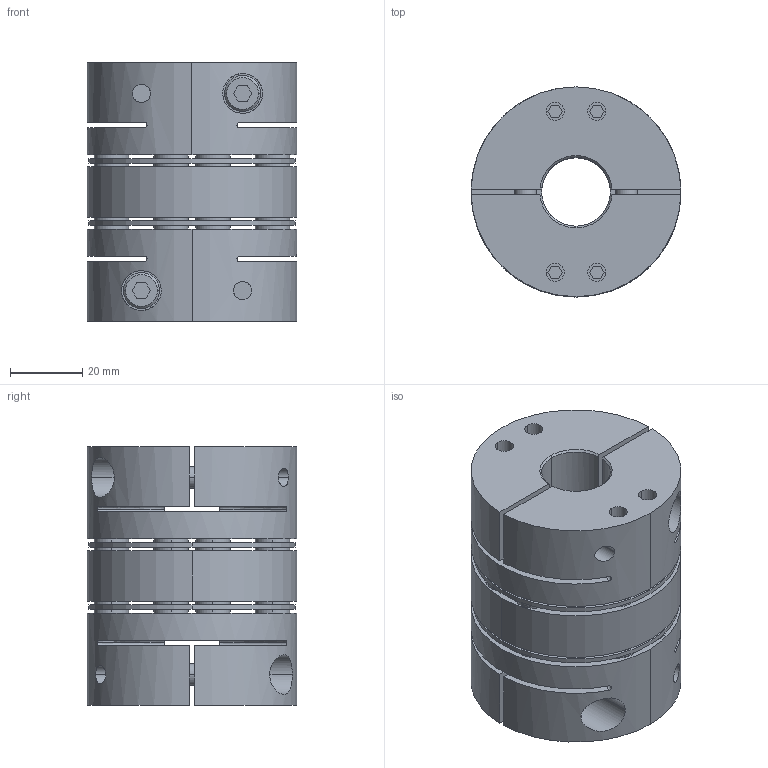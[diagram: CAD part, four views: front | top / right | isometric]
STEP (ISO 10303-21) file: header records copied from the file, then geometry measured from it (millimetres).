
FILE_DESCRIPTION((''),'2;1');
FILE_NAME('TAD-58C-19×19.stp','2022-11-13T22:04:01',(''),(''),'AutoCAD STEP 2000i','AutoCAD 2000i',', , ');
FILE_SCHEMA(('CONFIG_CONTROL_DESIGN'));
Length unit declared in the file: millimetre
Products named in the file (6): TAD-58C-12×12; 忣兜1; TA58C-12-2; CAP-M6×20; TA58C-12; TAS-58C-ITA
Assembly tree (6 placements, depth 3):
  TAD-58C-12×12
    忣兜1
    TA58C-12-2
      CAP-M6×20
    TA58C-12
      CAP-M6×20
    TAS-58C-ITA
Bounding box: 58 x 58 x 71.5 mm (x, y, z)
Volume: 134516 mm3; surface area: 56087 mm2
Topology: 1 solids, 5 shells, 568 faces, 1352 edges, 920 vertices
Faces by surface type: plane 252, cylinder 228, cone 72, bspline 16
Entity records: 18581 total; most frequent: CARTESIAN_POINT 4799, DIRECTION 2994, ORIENTED_EDGE 2640, EDGE_CURVE 1320, AXIS2_PLACEMENT_3D 1139, VERTEX_POINT 860, EDGE_LOOP 724, VECTOR 716
